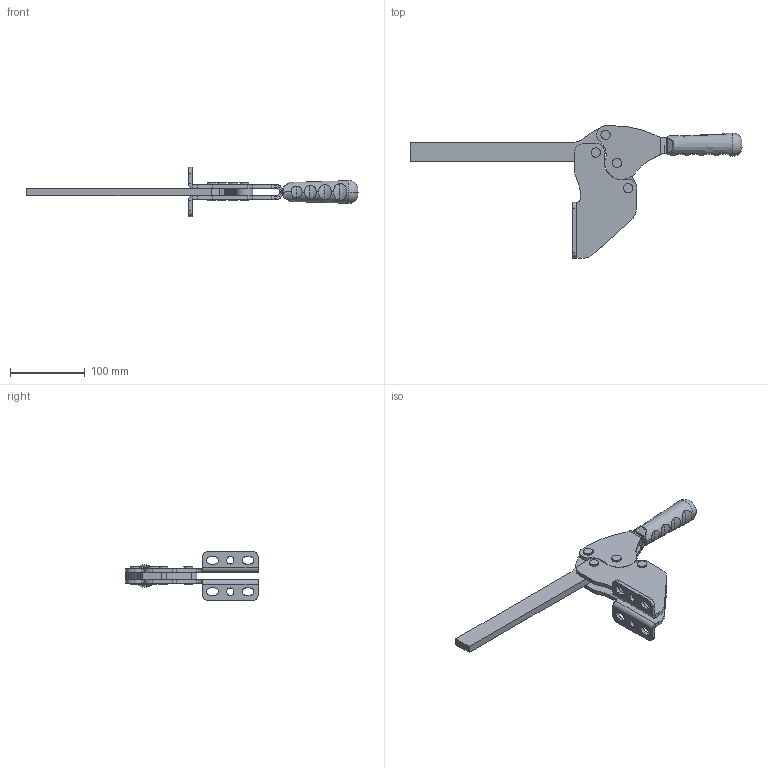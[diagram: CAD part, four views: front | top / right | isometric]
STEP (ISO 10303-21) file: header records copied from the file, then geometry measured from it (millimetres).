
FILE_DESCRIPTION (( 'STEP AP203' ), '1' );
FILE_NAME ('1265_A_L_MONTAJ.STEP', '2022-04-26T14:14:41', ( '' ), ( '' ), 'SwSTEP 2.0', 'SolidWorks 2020', '' );
FILE_SCHEMA (( 'CONFIG_CONTROL_DESIGN' ));
Length unit declared in the file: millimetre
Products named in the file (9): 1265 A gövde; 1265_MAFSAL; Aynalama1265 A gövde; Aynalama1265_HAREKET_KOLU; 1265_LAMA_BASKI_KOLU; 1265_A_L_MONTAJ; C100_Yeni_Tutamak_10x20; 8x25_PERﾇﾝN; 1265_HAREKET_KOLU
Assembly tree (11 placements, depth 2):
  1265_A_L_MONTAJ
    1265_HAREKET_KOLU
    1265_MAFSAL
    Aynalama1265_HAREKET_KOLU
    8x25_PERﾇﾝN  x4
    C100_Yeni_Tutamak_10x20
    1265_LAMA_BASKI_KOLU
    1265 A gövde
    Aynalama1265 A gövde
Bounding box: 445.07 x 177.53 x 66 mm (x, y, z)
Volume: 288783 mm3; surface area: 121353.2 mm2
Topology: 11 solids, 11 shells, 641 faces, 1663 edges, 1068 vertices
Faces by surface type: plane 375, cylinder 191, bspline 35, torus 34, cone 6
Entity records: 18019 total; most frequent: CARTESIAN_POINT 5338, ORIENTED_EDGE 2486, DIRECTION 2335, EDGE_CURVE 1243, VERTEX_POINT 804, LINE 781, VECTOR 781, AXIS2_PLACEMENT_3D 777
